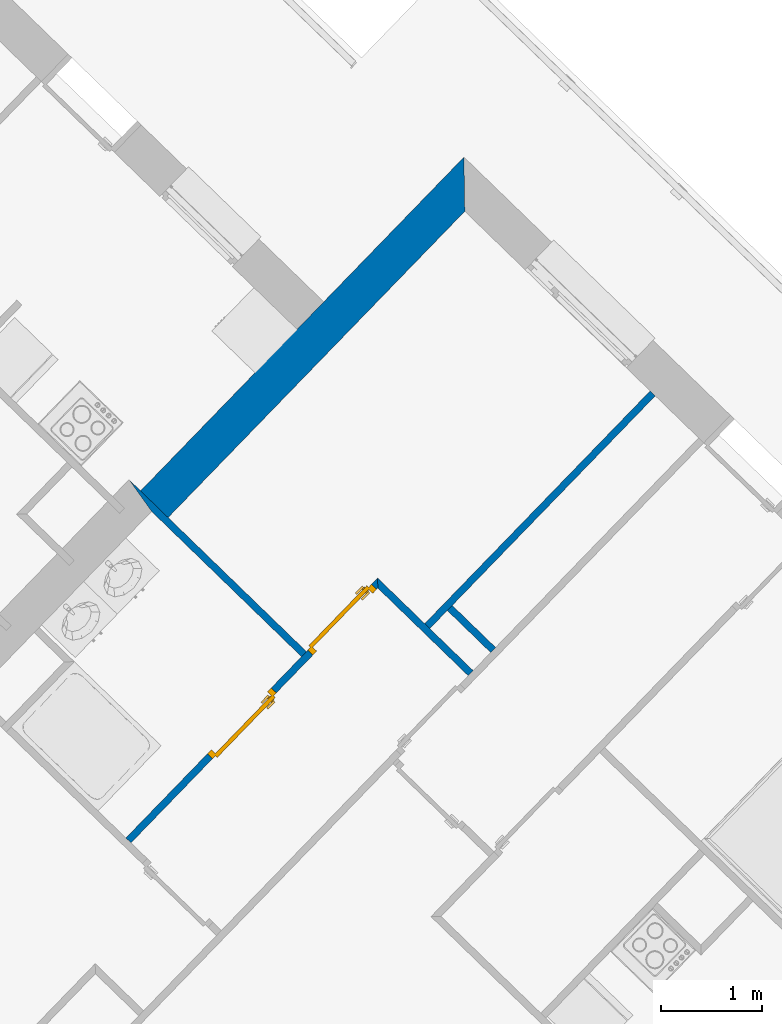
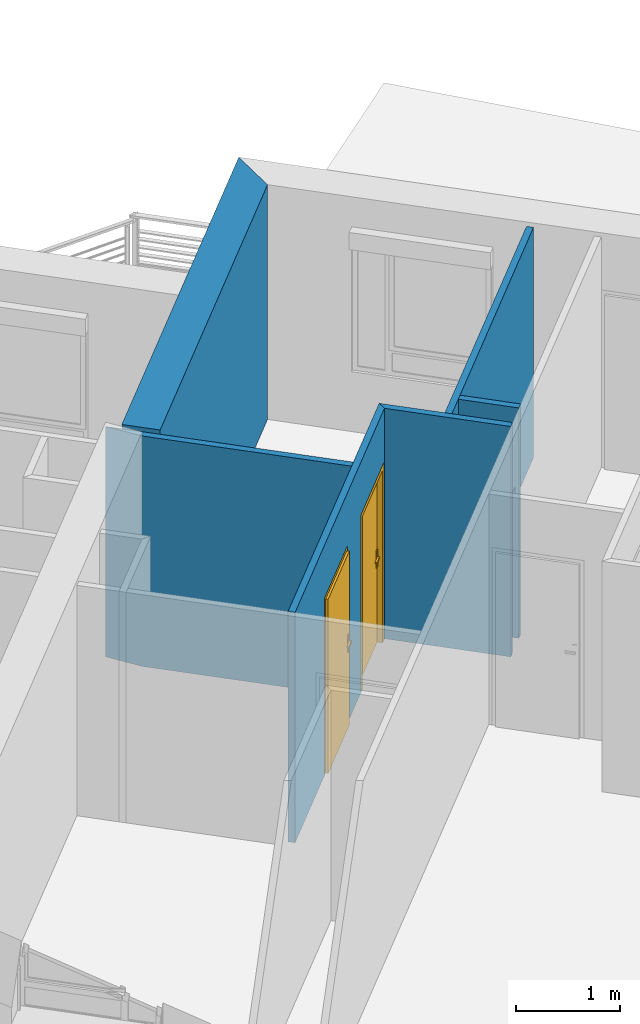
# One storey, part 19 of 121: 6 walls, 2 doors, 2 openings.
"""IFC2X3 building model written with IfcOpenShell, lengths in metres."""

from ifc_helpers import new_model, entity, si_unit, converted_unit, derived_unit, money_unit, direction, frame, origin_with_axes, origin_2d_with_axis, place, context, subcontext, project, spatial, polyline, rectangle, outline, extrude, faceted_brep, source, transform, mapped, material, layer, layer_set, layer_usage, type_object, element, fill, save


model = new_model("IFC2X3")

# Units and contexts
model_context = context("Model", 3, precision=1e-05, world=origin_with_axes(), true_north=direction((0.0, 1.0)))
body_context = subcontext(model_context, "Body", "Model", "MODEL_VIEW")
ifc_project = project(units=[si_unit("LENGTHUNIT", "METRE"), si_unit("AREAUNIT", "SQUARE_METRE"), si_unit("VOLUMEUNIT", "CUBIC_METRE"), converted_unit("PLANEANGLEUNIT", "DEGREE", entity("IfcPlaneAngleMeasure", 0.0174532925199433), si_unit("PLANEANGLEUNIT", "RADIAN"), dimensions=[0, 0, 0, 0, 0, 0, 0]), money_unit("CHF"), converted_unit("TIMEUNIT", "Year", entity("IfcTimeMeasure", 31557600.0), si_unit("TIMEUNIT", "SECOND"), dimensions=[0, 0, 1, 0, 0, 0, 0]), si_unit("MASSUNIT", "GRAM", prefix="KILO"), si_unit("THERMODYNAMICTEMPERATUREUNIT", "DEGREE_CELSIUS"), si_unit("LUMINOUSINTENSITYUNIT", "LUMEN"), si_unit("ENERGYUNIT", "JOULE", prefix="MEGA"), derived_unit("THERMALCONDUCTANCEUNIT", [(si_unit("POWERUNIT", "WATT"), 1), (si_unit("LENGTHUNIT", "METRE"), -1), (si_unit("THERMODYNAMICTEMPERATUREUNIT", "KELVIN"), -1)]), derived_unit("SPECIFICHEATCAPACITYUNIT", [(si_unit("ENERGYUNIT", "JOULE"), 1), (si_unit("MASSUNIT", "GRAM", prefix="KILO"), -1), (si_unit("THERMODYNAMICTEMPERATUREUNIT", "KELVIN"), -1)]), derived_unit("MASSDENSITYUNIT", [(si_unit("MASSUNIT", "GRAM", prefix="KILO"), 1), (si_unit("VOLUMEUNIT", "CUBIC_METRE"), -1)])], contexts=[model_context])

# Site, building, storey
site_placement = place(None, origin_with_axes())
site = spatial("IfcSite", under=ifc_project, at=site_placement, Name="Site", CompositionType="ELEMENT")
building_placement = place(site_placement, origin_with_axes())
building = spatial("IfcBuilding", under=site, at=building_placement, Name="Bâtiment", CompositionType="ELEMENT")
storey_placement = place(building_placement, frame((0.0, 0.0, 2.75), z_axis=(0.0, 0.0, 1.0), x_axis=(1.0, 0.0, 0.0)))
storey = spatial("IfcBuildingStorey", under=building, at=storey_placement, Name="Etage 1", CompositionType="ELEMENT", Elevation=2.75)

# Walls
ifc_material_1 = material(Name="Hachure solide 268963992")
ifc_layer_1 = layer(ifc_material_1, 0.07, ventilated="UNKNOWN")
ifc_layer_set_1 = layer_set([ifc_layer_1], Name="Cloison 70 0826278243")
ifc_layer_usage_1 = layer_usage(ifc_layer_set_1, "AXIS2", "POSITIVE", 0.0)
wall_type_1 = type_object("IfcWallType", Name="Cloison 70 0826278243 70", PredefinedType="NOTDEFINED")
wall_1_placement = place(storey_placement, frame((9530.426428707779, -1066.467930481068, 57.7), z_axis=(0.0, 0.0, 1.0), x_axis=(-0.7181763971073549, 0.6958610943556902, 0.0)))
element("IfcWallStandardCase", 1, at=wall_1_placement, inside=storey, type_object=wall_type_1, material=ifc_layer_usage_1, Name="Mur-149", context=body_context, shape_type="SweptSolid", body=[
    extrude(outline(polyline([(0.0, 0.0), (2.452148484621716, 0.0), (2.072148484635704, 0.06999999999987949), (0.0, 0.06999999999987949), (0.0, 0.0)])), origin_with_axes(), (0.0, 0.0, 1.0), 2.7),
])
ifc_layer_usage_2 = layer_usage(ifc_layer_set_1, "AXIS2", "POSITIVE", 0.0)
wall_2_placement = place(storey_placement, frame((9532.081338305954, -1066.656880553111, 57.7), z_axis=(0.0, 0.0, 1.0), x_axis=(-0.7181763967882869, 0.6958610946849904, 0.0)))
element("IfcWallStandardCase", 2, at=wall_2_placement, inside=storey, type_object=wall_type_1, material=ifc_layer_usage_2, Name="Mur-149", context=body_context, shape_type="SweptSolid", body=[
    extrude(outline(polyline([(3.1798208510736e-10, 0.0), (1.320000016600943, 0.0), (1.250000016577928, 0.06999999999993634), (4.371258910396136e-10, 0.07000000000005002), (3.1798208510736e-10, 0.0)])), origin_with_axes(), (0.0, 0.0, 1.0), 2.7),
])

# Wall, openings, doors
ifc_layer_usage_3 = layer_usage(ifc_layer_set_1, "AXIS2", "POSITIVE", 0.0)
wall_3_placement = place(storey_placement, frame((9531.133345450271, -1065.738343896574, 57.7), z_axis=(0.0, 0.0, 1.0), x_axis=(-0.6958610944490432, -0.7181763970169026, 0.0)))
wall_3 = element("IfcWallStandardCase", 3, at=wall_3_placement, inside=storey, type_object=wall_type_1, material=ifc_layer_usage_3, Name="Mur-149", context=body_context, shape_type="SweptSolid", body=[
    extrude(outline(polyline([(0.0, 0.0), (3.591154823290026, 0.0), (3.591154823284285, 0.06999999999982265), (0.07000000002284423, 0.06999999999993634), (0.0, 0.0)])), origin_with_axes(), (0.0, 0.0, 1.0), 2.7),
])
opening_1_placement = place(wall_3_placement, frame((0.5419280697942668, 0.0, 0.0), z_axis=(0.0, 0.0, 1.0), x_axis=(1.0, 0.0, 0.0)))
opening_1 = element("IfcOpeningElement", 4, at=opening_1_placement, cuts=wall_3, Name="Por-310", context=body_context, shape_type="SweptSolid", body=[
    extrude(rectangle(XDim=0.9099999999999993, YDim=2.079999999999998, at=origin_2d_with_axis()), frame((0.0, 0.07000000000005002, 1.039999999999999), z_axis=(0.0, 1.0, 0.0), x_axis=(1.0, 0.0, 0.0)), (0.0, 0.0, -1.0), 0.14),
])
opening_2_placement = place(wall_3_placement, frame((1.97243605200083, 0.0, 0.0), z_axis=(0.0, 0.0, 1.0), x_axis=(1.0, 0.0, 0.0)))
opening_2 = element("IfcOpeningElement", 5, at=opening_2_placement, cuts=wall_3, Name="Por-310", context=body_context, shape_type="SweptSolid", body=[
    extrude(rectangle(XDim=0.9099999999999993, YDim=2.079999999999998, at=origin_2d_with_axis()), frame((0.0, -0.07000000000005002, 1.039999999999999), z_axis=(0.0, 1.0, 0.0), x_axis=(1.0, 0.0, 0.0)), (0.0, 0.0, 1.0), 0.14),
])
door_style = type_object("IfcDoorStyle", Name="Porte_1v", ConstructionType="NOTDEFINED", OperationType="NOTDEFINED", ParameterTakesPrecedence=False, Sizeable=False)
shared_shape_1 = source(origin_with_axes(), body_context, "Body", "Brep", [
    faceted_brep([(0.455, 0.0, 0.0), (0.415, 0.0, 0.0), (0.415, 0.0, 2.04), (-0.415, 0.0, 2.04), (-0.415, 0.0, 0.0), (-0.455, 0.0, 0.0), (-0.455, 0.0, 2.08), (0.455, 0.0, 2.08), (0.455, -0.07, 0.0), (0.4, -0.07, 0.0), (0.4, -0.015, 0.0), (0.415, -0.015, 0.0), (0.415, -0.015, 2.04), (-0.415, -0.015, 2.04), (-0.415, -0.015, 0.0), (-0.4, -0.015, 0.0), (-0.4, -0.07, 0.0), (-0.455, -0.07, 0.0), (-0.455, -0.07, 2.08), (0.455, -0.07, 2.08), (-0.4, -0.07, 2.025), (0.4, -0.07, 2.025), (0.4, -0.015, 2.025), (-0.4, -0.015, 2.025)], [[[0, 1, 2, 3, 4, 5, 6, 7]], [[0, 8, 9, 10, 11, 1]], [[1, 11, 12, 2]], [[2, 12, 13, 3]], [[3, 13, 14, 4]], [[5, 4, 14, 15, 16, 17]], [[18, 6, 5, 17]], [[19, 7, 6, 18]], [[8, 0, 7, 19]], [[9, 8, 19, 18, 17, 16, 20, 21]], [[10, 9, 21, 22]], [[11, 10, 22, 23, 15, 14, 13, 12]], [[23, 20, 16, 15]], [[22, 21, 20, 23]]]),
    faceted_brep([(-0.35, -0.015, 0.9), (-0.39, -0.015, 0.9), (-0.39, -0.015, 1.1), (-0.35, -0.015, 1.1), (-0.35, -0.025, 0.9), (-0.39, -0.025, 0.9), (-0.39, -0.025, 1.1), (-0.35, -0.025, 1.1)], [[[0, 1, 2, 3]], [[1, 0, 4, 5]], [[2, 1, 5, 6]], [[3, 2, 6, 7]], [[0, 3, 7, 4]], [[5, 4, 7, 6]]]),
    faceted_brep([(-0.28, -0.025, 1.0), (-0.38, -0.025, 1.0), (-0.38, -0.025, 1.02), (-0.28, -0.025, 1.02), (-0.28, -0.045, 1.0), (-0.38, -0.045, 1.0), (-0.38, -0.045, 1.02), (-0.28, -0.045, 1.02)], [[[0, 1, 2, 3]], [[1, 0, 4, 5]], [[2, 1, 5, 6]], [[3, 2, 6, 7]], [[0, 3, 7, 4]], [[5, 4, 7, 6]]]),
    faceted_brep([(-0.35, 0.035, 0.9), (-0.39, 0.035, 0.9), (-0.39, 0.035, 1.1), (-0.35, 0.035, 1.1), (-0.35, 0.025, 0.9), (-0.39, 0.025, 0.9), (-0.39, 0.025, 1.1), (-0.35, 0.025, 1.1)], [[[0, 1, 2, 3]], [[1, 0, 4, 5]], [[2, 1, 5, 6]], [[3, 2, 6, 7]], [[0, 3, 7, 4]], [[5, 4, 7, 6]]]),
    faceted_brep([(-0.28, 0.05500000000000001, 1.0), (-0.38, 0.05500000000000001, 1.0), (-0.38, 0.05500000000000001, 1.02), (-0.28, 0.05500000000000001, 1.02), (-0.28, 0.035, 1.0), (-0.38, 0.035, 1.0), (-0.38, 0.035, 1.02), (-0.28, 0.035, 1.02)], [[[0, 1, 2, 3]], [[1, 0, 4, 5]], [[2, 1, 5, 6]], [[3, 2, 6, 7]], [[0, 3, 7, 4]], [[5, 4, 7, 6]]]),
    faceted_brep([(-0.415, 0.025, 0.0), (0.415, 0.025, 0.0), (0.415, -0.015, 0.0), (-0.415, -0.015, 0.0), (-0.415, 0.025, 2.04), (0.415, 0.025, 2.04), (0.415, -0.015, 2.04), (-0.415, -0.015, 2.04)], [[[0, 1, 2, 3]], [[0, 4, 5, 1]], [[1, 5, 6, 2]], [[3, 2, 6, 7]], [[4, 0, 3, 7]], [[5, 4, 7, 6]]]),
])
door_1_placement = place(opening_2_placement, frame((-0.4149999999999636, 0.0, 0.0), z_axis=(0.0, 0.0, 1.0), x_axis=(1.0, 0.0, 0.0)))
door_1 = element("IfcDoor", 6, at=door_1_placement, inside=storey, type_object=door_style, Name="Por-310", OverallHeight=2.04, OverallWidth=0.83, context=body_context, shape_type="MappedRepresentation", body=[
    mapped(shared_shape_1, transform((0.4149999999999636, 0.07000000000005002, 0.0))),
])
fill(opening_2, door_1)
shared_shape_2 = source(origin_with_axes(), body_context, "Body", "Brep", [
    faceted_brep([(-0.455, 0.0, 0.0), (-0.455, 0.0, 2.08), (0.455, 0.0, 2.08), (0.455, 0.0, 0.0), (0.415, 0.0, 0.0), (0.415, 0.0, 2.04), (-0.415, 0.0, 2.04), (-0.415, 0.0, 0.0), (-0.455, -0.07, 0.0), (-0.455, -0.07, 2.08), (0.455, -0.07, 2.08), (0.455, -0.07, 0.0), (0.4, -0.07, 0.0), (0.4, -0.015, 0.0), (0.415, -0.015, 0.0), (0.415, -0.015, 2.04), (-0.415, -0.015, 2.04), (-0.415, -0.015, 0.0), (-0.4, -0.015, 0.0), (-0.4, -0.07, 0.0), (-0.4, -0.07, 2.025), (0.4, -0.07, 2.025), (0.4, -0.015, 2.025), (-0.4, -0.015, 2.025)], [[[0, 1, 2, 3, 4, 5, 6, 7]], [[8, 9, 1, 0]], [[9, 10, 2, 1]], [[10, 11, 3, 2]], [[3, 11, 12, 13, 14, 4]], [[5, 4, 14, 15]], [[6, 5, 15, 16]], [[7, 6, 16, 17]], [[0, 7, 17, 18, 19, 8]], [[19, 20, 21, 12, 11, 10, 9, 8]], [[22, 13, 12, 21]], [[17, 16, 15, 14, 13, 22, 23, 18]], [[18, 23, 20, 19]], [[23, 22, 21, 20]]]),
    faceted_brep([(0.35, -0.015, 0.9), (0.35, -0.015, 1.1), (0.39, -0.015, 1.1), (0.39, -0.015, 0.9), (0.35, -0.025, 0.9), (0.35, -0.025, 1.1), (0.39, -0.025, 1.1), (0.39, -0.025, 0.9)], [[[0, 1, 2, 3]], [[0, 4, 5, 1]], [[1, 5, 6, 2]], [[2, 6, 7, 3]], [[3, 7, 4, 0]], [[7, 6, 5, 4]]]),
    faceted_brep([(0.28, -0.025, 1.0), (0.28, -0.025, 1.02), (0.38, -0.025, 1.02), (0.38, -0.025, 1.0), (0.28, -0.045, 1.0), (0.28, -0.045, 1.02), (0.38, -0.045, 1.02), (0.38, -0.045, 1.0)], [[[0, 1, 2, 3]], [[0, 4, 5, 1]], [[1, 5, 6, 2]], [[2, 6, 7, 3]], [[3, 7, 4, 0]], [[7, 6, 5, 4]]]),
    faceted_brep([(0.35, 0.035, 0.9), (0.35, 0.035, 1.1), (0.39, 0.035, 1.1), (0.39, 0.035, 0.9), (0.35, 0.025, 0.9), (0.35, 0.025, 1.1), (0.39, 0.025, 1.1), (0.39, 0.025, 0.9)], [[[0, 1, 2, 3]], [[0, 4, 5, 1]], [[1, 5, 6, 2]], [[2, 6, 7, 3]], [[3, 7, 4, 0]], [[7, 6, 5, 4]]]),
    faceted_brep([(0.28, 0.05500000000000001, 1.0), (0.28, 0.05500000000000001, 1.02), (0.38, 0.05500000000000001, 1.02), (0.38, 0.05500000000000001, 1.0), (0.28, 0.035, 1.0), (0.28, 0.035, 1.02), (0.38, 0.035, 1.02), (0.38, 0.035, 1.0)], [[[0, 1, 2, 3]], [[0, 4, 5, 1]], [[1, 5, 6, 2]], [[2, 6, 7, 3]], [[3, 7, 4, 0]], [[7, 6, 5, 4]]]),
    faceted_brep([(0.415, 0.025, 0.0), (0.415, -0.015, 0.0), (-0.415, -0.015, 0.0), (-0.415, 0.025, 0.0), (0.415, 0.025, 2.04), (0.415, -0.015, 2.04), (-0.415, -0.015, 2.04), (-0.415, 0.025, 2.04)], [[[0, 1, 2, 3]], [[4, 5, 1, 0]], [[1, 5, 6, 2]], [[3, 2, 6, 7]], [[0, 3, 7, 4]], [[7, 6, 5, 4]]]),
])
door_2_placement = place(opening_1_placement, frame((0.4149999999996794, 0.0, 0.0), z_axis=(0.0, 0.0, 1.0), x_axis=(-1.0, 0.0, 0.0)))
door_2 = element("IfcDoor", 7, at=door_2_placement, inside=storey, type_object=door_style, Name="Por-310", OverallHeight=2.04, OverallWidth=0.83, context=body_context, shape_type="MappedRepresentation", body=[
    mapped(shared_shape_2, transform((0.4149999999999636, 0.0, 0.0))),
])
fill(opening_1, door_2)

# Walls
ifc_layer_usage_4 = layer_usage(ifc_layer_set_1, "AXIS2", "POSITIVE", 0.0)
wall_4_placement = place(storey_placement, frame((9532.304013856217, -1066.427064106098, 57.7), z_axis=(0.0, 0.0, 1.0), x_axis=(-0.7181763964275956, 0.6958610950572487, 0.0)))
element("IfcWallStandardCase", 8, at=wall_4_placement, inside=storey, type_object=wall_type_1, material=ifc_layer_usage_4, Name="Mur-149", context=body_context, shape_type="SweptSolid", body=[
    extrude(outline(polyline([(-2.810338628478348e-10, 0.0), (0.5999999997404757, 0.0), (0.5999999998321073, 0.07000000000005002), (-1.979287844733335e-10, 0.06999999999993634), (-2.810338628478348e-10, 0.0)])), origin_with_axes(), (0.0, 0.0, 1.0), 2.7),
])
ifc_layer_usage_5 = layer_usage(ifc_layer_set_1, "AXIS2", "POSITIVE", 0.0)
wall_5_placement = place(storey_placement, frame((9534.102849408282, -1063.607706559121, 57.7), z_axis=(0.0, 0.0, 1.0), x_axis=(-0.6958610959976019, -0.7181763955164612, 0.0)))
element("IfcWallStandardCase", 9, at=wall_5_placement, inside=storey, type_object=wall_type_1, material=ifc_layer_usage_5, Name="Mur-149", context=body_context, shape_type="SweptSolid", body=[
    extrude(outline(polyline([(0.3799999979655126, 0.0), (3.666535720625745, 0.0), (3.666535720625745, 0.06999999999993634), (0.3799999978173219, 0.06999999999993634), (0.3799999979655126, 0.0)])), origin_with_axes(), (0.0, 0.0, 1.0), 2.7),
])
ifc_material_2 = material(Name="Parpaing 312445824")
ifc_layer_2 = layer(ifc_material_2, 0.22, ventilated="UNKNOWN")
ifc_material_3 = material(Name="Isolant styromousse 301821074")
ifc_layer_3 = layer(ifc_material_3, 0.16, ventilated="UNKNOWN")
ifc_layer_set_2 = layer_set([ifc_layer_2, ifc_layer_3], Name="isol int 22+16 0836643197")
ifc_layer_usage_6 = layer_usage(ifc_layer_set_2, "AXIS2", "NEGATIVE", 0.0)
wall_type_2 = type_object("IfcWallType", Name="isol int 22+16 0836643197 380", PredefinedType="NOTDEFINED")
wall_6_placement = place(storey_placement, frame((9528.780261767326, -1064.872913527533, 57.7), z_axis=(0.0, 0.0, 1.0), x_axis=(0.6958610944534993, 0.7181763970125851, 0.0)))
element("IfcWallStandardCase", 10, at=wall_6_placement, inside=storey, type_object=wall_type_2, material=ifc_layer_usage_6, Name="Mur-116", context=body_context, shape_type="SweptSolid", body=[
    extrude(outline(polyline([(0.0, -0.3799999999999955), (4.23242344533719, -0.3799999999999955), (4.612423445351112, 0.0), (0.0, 0.0), (0.0, -0.3799999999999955)])), origin_with_axes(), (0.0, 0.0, 1.0), 2.75),
])

save(model, "model.ifc")
